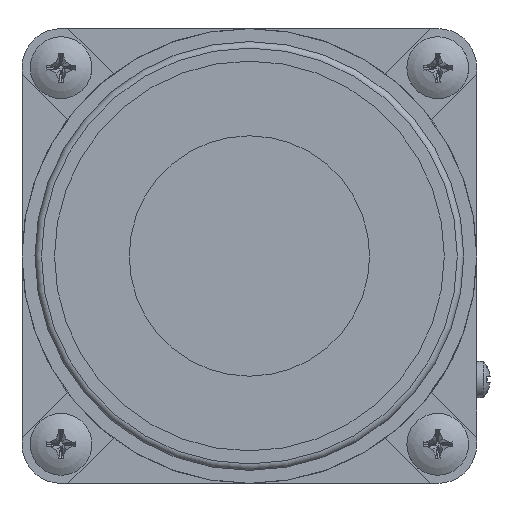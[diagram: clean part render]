
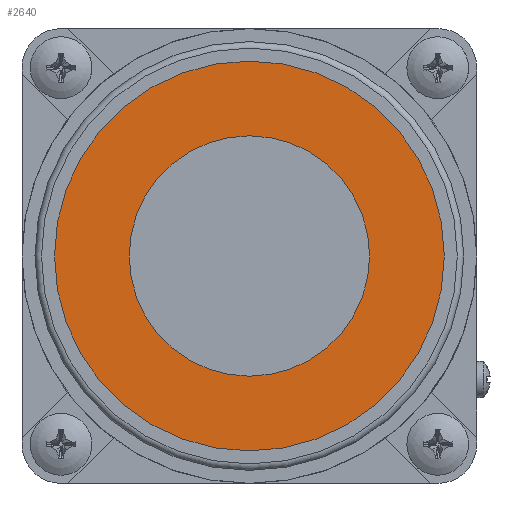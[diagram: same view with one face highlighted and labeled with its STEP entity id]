
A CAD part, left-side view. The second image highlights one B-rep face of the part: STEP entity #2640.
In plain terms, the highlighted planar face has unit normal (-1, 0, 0).
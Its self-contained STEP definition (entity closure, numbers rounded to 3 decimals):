
#2268=PLANE('',#7447);
#2640=ADVANCED_FACE('',(#2987,#2988),#2268,.T.);
#2987=FACE_BOUND('',#3477,.T.);
#2988=FACE_BOUND('',#3478,.T.);
#3477=EDGE_LOOP('',(#4920));
#3478=EDGE_LOOP('',(#4921));
#4920=ORIENTED_EDGE('',*,*,#6415,.F.);
#4921=ORIENTED_EDGE('',*,*,#6414,.F.);
#5647=VERTEX_POINT('',#11922);
#5648=VERTEX_POINT('',#11925);
#6414=EDGE_CURVE('',#5647,#5647,#6737,.T.);
#6415=EDGE_CURVE('',#5648,#5648,#6738,.T.);
#6737=CIRCLE('',#7444,30.);
#6738=CIRCLE('',#7446,18.5);
#7444=AXIS2_PLACEMENT_3D('',#11921,#8646,#8647);
#7446=AXIS2_PLACEMENT_3D('',#11924,#8650,#8651);
#7447=AXIS2_PLACEMENT_3D('',#11926,#8652,#8653);
#8646=DIRECTION('',(1.,0.,0.));
#8647=DIRECTION('',(0.,0.,-1.));
#8650=DIRECTION('',(-1.,0.,0.));
#8651=DIRECTION('',(0.,0.,-1.));
#8652=DIRECTION('',(-1.,0.,0.));
#8653=DIRECTION('',(0.,0.,-1.));
#11921=CARTESIAN_POINT('',(-91.,0.,0.));
#11922=CARTESIAN_POINT('',(-91.,0.,-30.));
#11924=CARTESIAN_POINT('',(-91.,0.,0.));
#11925=CARTESIAN_POINT('',(-91.,0.,-18.5));
#11926=CARTESIAN_POINT('',(-91.,0.,0.));
